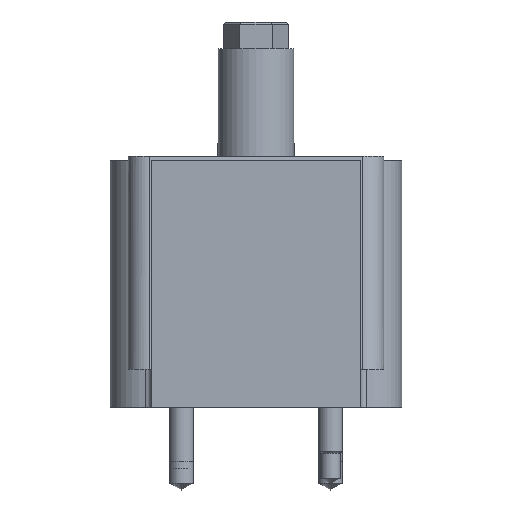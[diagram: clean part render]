
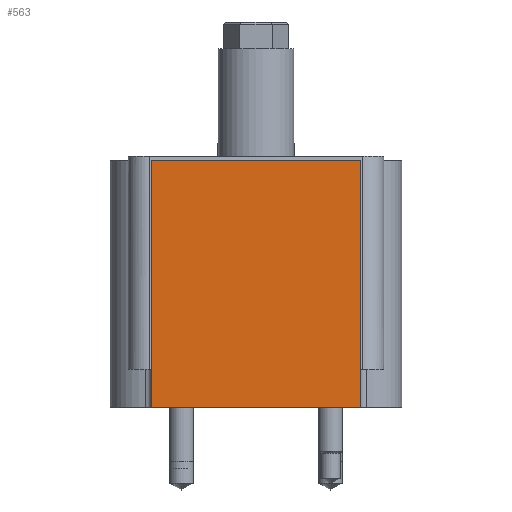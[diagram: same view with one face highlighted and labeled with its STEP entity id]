
A CAD part, left-side view. The second image highlights one B-rep face of the part: STEP entity #563.
In plain terms, the highlighted planar face has unit normal (-1, 0, 0).
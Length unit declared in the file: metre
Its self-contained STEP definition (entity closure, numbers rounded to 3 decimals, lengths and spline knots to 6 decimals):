
#563=ADVANCED_FACE('',(#1259),#1260,.T.);
#1259=FACE_OUTER_BOUND('',#2240,.T.);
#1260=PLANE('',#2241);
#2240=EDGE_LOOP('',(#11888,#11889,#11890,#11891));
#2241=AXIS2_PLACEMENT_3D('',#11892,#11893,#11894);
#11888=ORIENTED_EDGE('',*,*,#13378,.F.);
#11889=ORIENTED_EDGE('',*,*,#13338,.T.);
#11890=ORIENTED_EDGE('',*,*,#13371,.F.);
#11891=ORIENTED_EDGE('',*,*,#13360,.T.);
#11892=CARTESIAN_POINT('',(-0.084201,0.0,0.0));
#11893=DIRECTION('',(-1.0,0.0,0.0));
#11894=DIRECTION('',(0.0,0.0,1.0));
#13338=EDGE_CURVE('',#14095,#14093,#14096,.T.);
#13360=EDGE_CURVE('',#14131,#14129,#14132,.T.);
#13371=EDGE_CURVE('',#14131,#14093,#14144,.F.);
#13378=EDGE_CURVE('',#14095,#14129,#14151,.F.);
#14093=VERTEX_POINT('',#15137);
#14095=VERTEX_POINT('',#15140);
#14096=LINE('',#15141,#15142);
#14129=VERTEX_POINT('',#15179);
#14131=VERTEX_POINT('',#15182);
#14132=LINE('',#15183,#15184);
#14144=LINE('',#15201,#15202);
#14151=LINE('',#15212,#15213);
#15137=CARTESIAN_POINT('',(-0.084201,-0.034988,0.0));
#15140=CARTESIAN_POINT('',(-0.084201,0.034988,0.0));
#15141=CARTESIAN_POINT('',(-0.084201,0.0,0.0));
#15142=VECTOR('',#18420,1.0);
#15179=CARTESIAN_POINT('',(-0.084201,0.034988,0.08255));
#15182=CARTESIAN_POINT('',(-0.084201,-0.034988,0.08255));
#15183=CARTESIAN_POINT('',(-0.084201,0.0,0.08255));
#15184=VECTOR('',#18456,1.0);
#15201=CARTESIAN_POINT('',(-0.084201,-0.034988,0.0));
#15202=VECTOR('',#18465,1.0);
#15212=CARTESIAN_POINT('',(-0.084201,0.034988,0.0));
#15213=VECTOR('',#18469,1.0);
#18420=DIRECTION('',(-0.0,-1.0,-0.0));
#18456=DIRECTION('',(0.0,1.0,0.0));
#18465=DIRECTION('',(0.0,0.0,1.0));
#18469=DIRECTION('',(0.0,0.0,-1.0));
